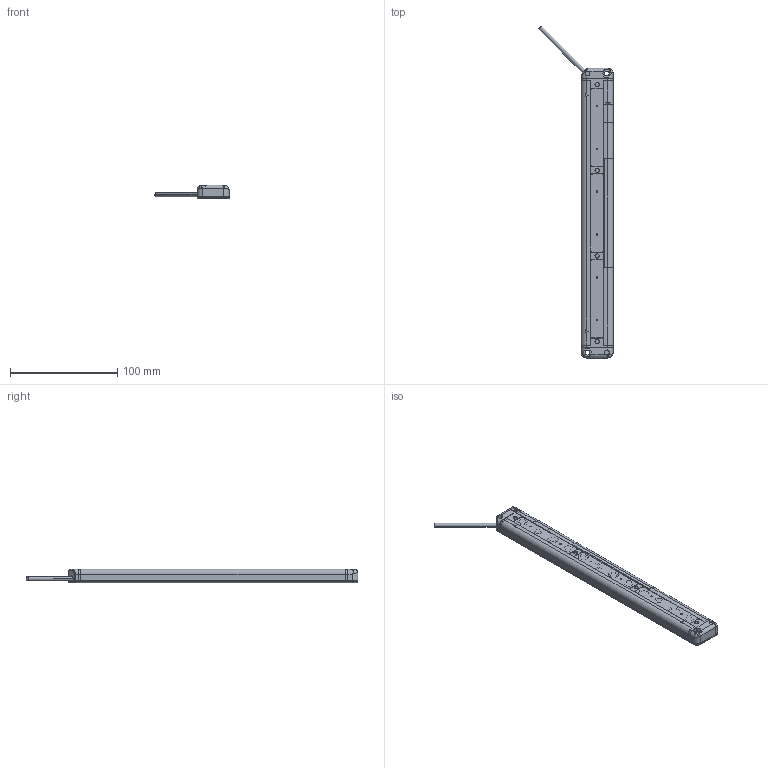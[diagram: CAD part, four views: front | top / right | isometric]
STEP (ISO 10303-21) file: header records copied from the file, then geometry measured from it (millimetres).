
FILE_DESCRIPTION((''),'2;1');
FILE_NAME('SA2_12_FASHE_ASM','2018-10-19T15:45:08',('Administrator'),(''),'CREO PARAMETRIC BY PTC INC, 2016390','CREO PARAMETRIC BY PTC INC, 2016390','');
FILE_SCHEMA(('AUTOMOTIVE_DESIGN { 1 0 10303 214 1 1 1 1 }'));
Length unit declared in the file: millimetre
Products named in the file (7): 074-_8315_1; 072-1_6974_1; 074-_11951_1; ADMID3172S3O_4; COVER; G12PCB_FASHE; SA2_12_FASHE_ASM
Assembly tree (8 placements, depth 2):
  SA2_12_FASHE_ASM
    074-_8315_1
    072-1_6974_1
    074-_11951_1
    ADMID3172S3O_4  x3
    COVER
    G12PCB_FASHE
Bounding box: 69.43 x 309.93 x 13 mm (x, y, z)
Volume: 54993.6 mm3; surface area: 72676 mm2
Topology: 8 solids, 8 shells, 1828 faces, 5378 edges, 3669 vertices
Faces by surface type: plane 941, cylinder 506, cone 255, torus 91, sphere 26, bspline 9
Entity records: 56873 total; most frequent: CARTESIAN_POINT 13441, ORIENTED_EDGE 9408, DIRECTION 7885, EDGE_CURVE 4704, VERTEX_POINT 3221, VECTOR 2659, LINE 2659, AXIS2_PLACEMENT_3D 2613
